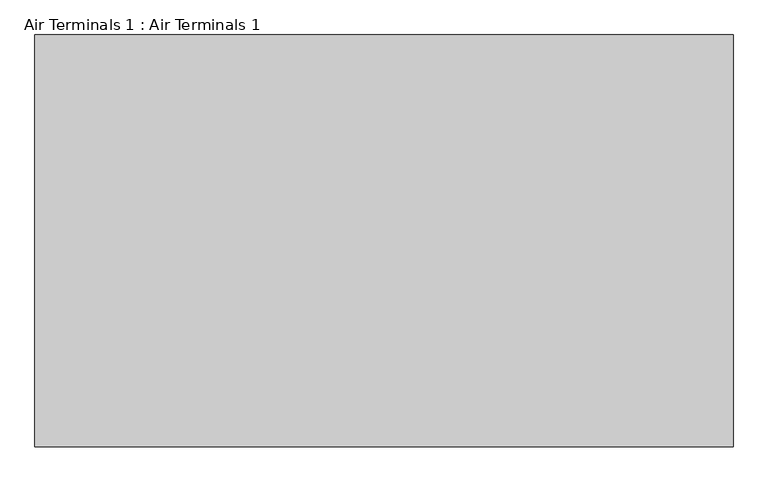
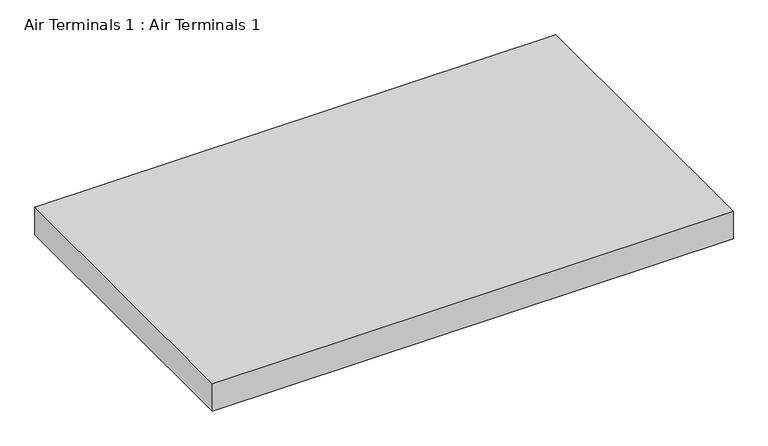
"""IFC4 building model written with IfcOpenShell, lengths in millimetres: air terminal geometry, Air Terminals 1 : Air Terminals 1."""

from ifc_helpers import new_model, si_unit, frame, origin, place, context, project, spatial, polyline, outline, extrude, source, transform, mapped, element, save


def air_terminals_1_air_terminals_1_f5a92605(model_context):
    return source(origin(), model_context, "Body", "SweptSolid", [
        extrude(outline(polyline([(1833.1973575, 613.9879552), (1833.1973575, 1963.1766815), (4119.1973575, 1963.1766815), (4119.1973575, 613.9879552), (1833.1973575, 613.9879552)])), frame((0.0, 0.0, 3138.9418302), z_axis=(0.0, 0.0, 1.0), x_axis=(1.0, 0.0, 0.0)), (0.0, 0.0, 1.0), 127.0),
    ])


if __name__ == "__main__":
    model = new_model("IFC4")
    model_context = context("Model", 3, world=origin())
    ifc_project = project(units=[si_unit("LENGTHUNIT", "METRE", prefix="MILLI")], contexts=[model_context])
    site = spatial("IfcSite", under=ifc_project)
    building = spatial("IfcBuilding", under=site)
    placement = place(None, origin())
    air_terminals_1_air_terminals_1_shape = air_terminals_1_air_terminals_1_f5a92605(model_context)
    element("IfcAirTerminal", 1, ObjectType="Air Terminals 1 : Air Terminals 1", at=placement, inside=building, context=model_context, shape_type="MappedRepresentation", body=[
        mapped(air_terminals_1_air_terminals_1_shape, transform((0.0, 0.0, 0.0), x_axis=(1.0, 0.0, 0.0), y_axis=(0.0, 1.0, 0.0), z_axis=(0.0, 0.0, 1.0))),
    ])
    save(model, "model.ifc")
